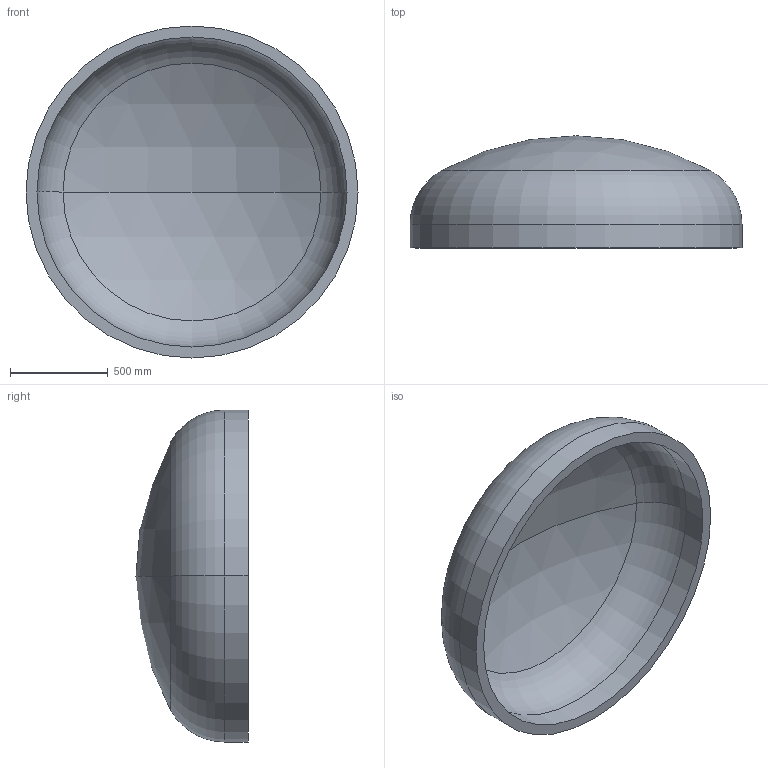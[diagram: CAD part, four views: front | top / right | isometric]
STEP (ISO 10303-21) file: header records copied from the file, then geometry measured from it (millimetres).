
FILE_DESCRIPTION (( 'STEP AP203' ), '1' );
FILE_NAME ('DIN 28013 Korbbogenform_-_Boden DIN 28013 - 1700 x 120 - I - s=56.step', '2016-07-01T11:54:33', ( '' ), ( '' ), 'SwSTEP 2.0', 'SolidWorks 2013', '' );
FILE_SCHEMA (( 'CONFIG_CONTROL_DESIGN' ));
Length unit declared in the file: millimetre
Products named in the file (1): DIN 28013 Korbbogenform_-_Boden DIN 28013 - 1700 x 120 - I - s=56
Bounding box: 1700 x 574.31 x 1700 mm (x, y, z)
Volume: 203119828.1 mm3; surface area: 7550073.1 mm2
Topology: 1 solids, 1 shells, 13 faces, 24 edges, 14 vertices
Faces by surface type: torus 4, cylinder 4, sphere 4, plane 1
Entity records: 407 total; most frequent: DIRECTION 72, CARTESIAN_POINT 52, ORIENTED_EDGE 48, AXIS2_PLACEMENT_3D 34, EDGE_CURVE 24, CIRCLE 20, VERTEX_POINT 14, EDGE_LOOP 14
